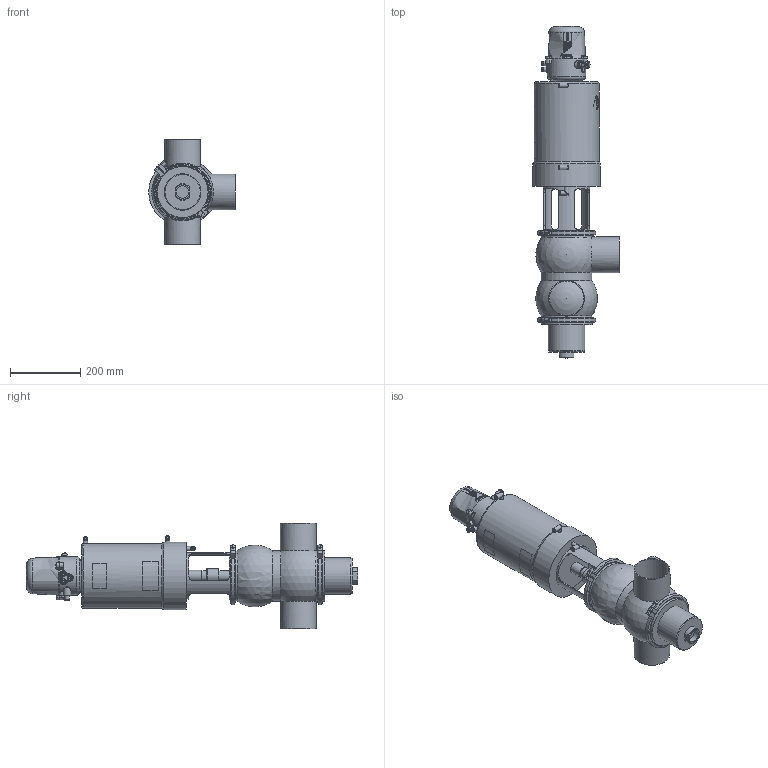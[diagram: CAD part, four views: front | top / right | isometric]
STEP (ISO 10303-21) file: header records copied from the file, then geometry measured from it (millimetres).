
FILE_DESCRIPTION (( 'STEP AP214' ), '1' );
FILE_NAME ('INNOVA P BB-90 W OD 4 & C-TOP S_10.250.16.0013.STEP', '2024-08-09T11:59:07', ( '' ), ( '' ), 'SwSTEP 2.0', 'SolidWorks 2023', '' );
FILE_SCHEMA (( 'AUTOMOTIVE_DESIGN' ));
Length unit declared in the file: millimetre
Products named in the file (7): 10.240.15.0001_DN 100; 10.250.15.0002_Type P T3; INNOVA P BB-90 W OD 4 & C-TOP S_10.250.16.0013; 10.251.15.0005_OD 4"; 10.250.15.0003_DN 4"; 10.426.15.0001_C-TOP S - 3 EV; 10.250.15.0001_OD 4"
Assembly tree (7 placements, depth 2):
  INNOVA P BB-90 W OD 4 & C-TOP S_10.250.16.0013
    10.250.15.0001_OD 4"
    10.250.15.0002_Type P T3
    10.426.15.0001_C-TOP S - 3 EV
    10.251.15.0005_OD 4"
    10.240.15.0001_DN 100  x2
    10.250.15.0003_DN 4"
Bounding box: 246.5 x 945.6 x 300 mm (x, y, z)
Volume: 16306956.8 mm3; surface area: 879780.3 mm2
Topology: 7 solids, 7 shells, 1207 faces, 2915 edges, 1938 vertices
Faces by surface type: plane 413, cylinder 385, cone 204, bspline 162, torus 33, sphere 10
Full cylindrical faces by diameter (mm): 0.371 x17, 0.512 x16, 0.658 x16, 0.795 x16, 0.94 x15, 1.098 x15, 1.241 x13, 1.382 x13, 1.523 x11, 1.669 x10, 2.201 x1, 4.2 x2, 5 x1, 5.5 x2, 6 x4, 6.15 x3, 8 x5, 10 x1, 10.5 x3, 11 x4, 12.5 x9, 13 x6, 13.5 x2, 17 x3, 20 x2, 22 x2, 30.5 x2, 32 x1, 35 x1, 41 x1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
Entity records: 60161 total; most frequent: CARTESIAN_POINT 28688, ORIENTED_EDGE 4626, DIRECTION 3773, EDGE_CURVE 2313, VERTEX_POINT 1649, EDGE_LOOP 1628, AXIS2_PLACEMENT_3D 1556, FACE_OUTER_BOUND 1376
